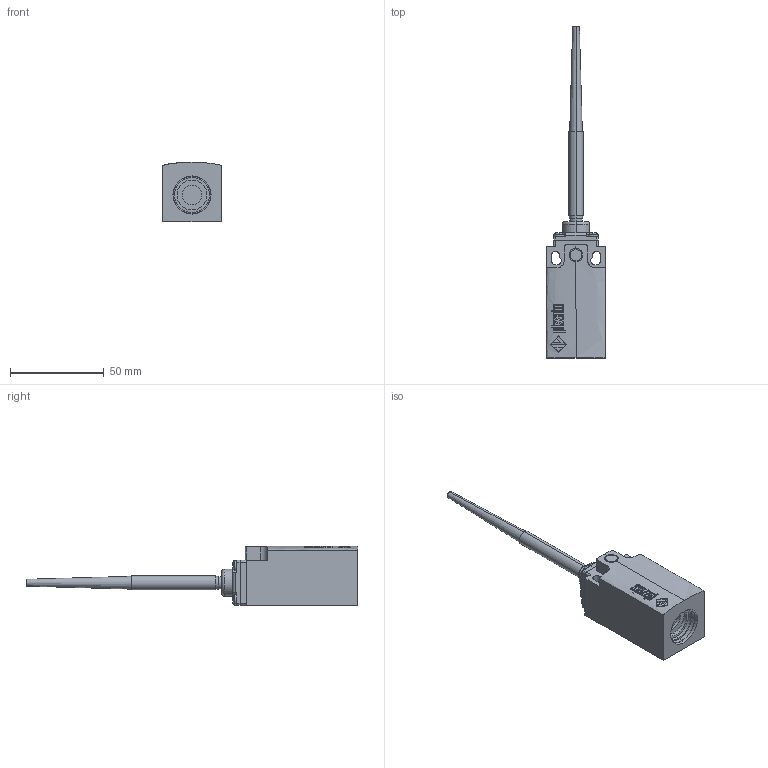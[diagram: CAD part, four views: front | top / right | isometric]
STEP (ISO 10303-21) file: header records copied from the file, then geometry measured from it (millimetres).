
FILE_DESCRIPTION (( 'STEP AP203' ), '1' );
FILE_NAME ('ZF_STEP_FR_x20.STEP', '2024-02-26T08:54:53', ( '' ), ( '' ), 'SwSTEP 2.0', 'SolidWorks 2023', '' );
FILE_SCHEMA (( 'CONFIG_CONTROL_DESIGN' ));
Length unit declared in the file: millimetre
Products named in the file (6): ZF_STEP_VF_TE20; Pizzato_TE20; Pizzato_Custodia_FR_3dweb; Pizzato_Supporto_TE20; ZF_STEP_FR_x20
Assembly tree (5 placements, depth 3):
  ZF_STEP_FR_x20
    Pizzato_Custodia_FR_3dweb
      Pizzato_Custodia_FR_3dweb
    ZF_STEP_VF_TE20
      Pizzato_Supporto_TE20
      Pizzato_TE20
Bounding box: 31.2 x 177.5 x 31.6 mm (x, y, z)
Volume: 60144 mm3; surface area: 16544.3 mm2
Topology: 3 solids, 3 shells, 423 faces, 1102 edges, 732 vertices
Faces by surface type: plane 237, bspline 114, cylinder 58, sphere 8, torus 4, cone 2
Entity records: 17446 total; most frequent: CARTESIAN_POINT 7235, ORIENTED_EDGE 2204, DIRECTION 1578, EDGE_CURVE 1102, VERTEX_POINT 732, VECTOR 680, LINE 680, EDGE_LOOP 474
